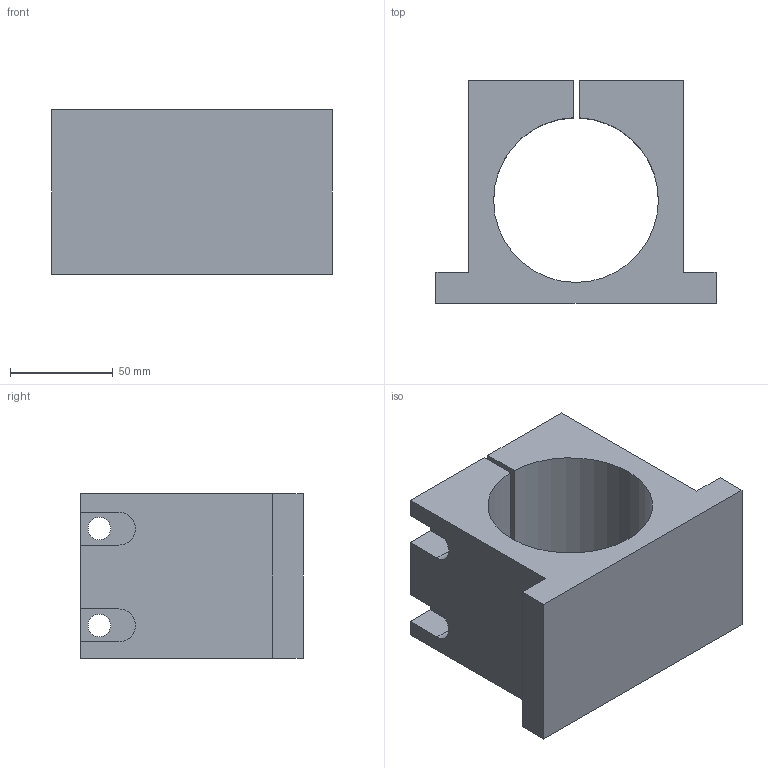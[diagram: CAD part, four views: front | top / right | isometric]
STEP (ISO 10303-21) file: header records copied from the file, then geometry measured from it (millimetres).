
FILE_DESCRIPTION(('STEP AP214'), '1');
FILE_NAME('Êðåïëåíèå äëÿ øïèíäåëÿ _ Cåðèÿ SQ80', '', ('UNSPECIFIED'), ('UNSPECIFIED'), 'ASCON STEP Converter 1.3', 'ASCON Math Kernel', '');
FILE_SCHEMA(('AUTOMOTIVE_DESIGN { 1 0 10303 214 3 1 1}'));
Length unit declared in the file: millimetre
Products named in the file (1): Ñåðèÿ SQ80
Bounding box: 136 x 108 x 80 mm (x, y, z)
Volume: 495059.1 mm3; surface area: 81813.4 mm2
Topology: 1 solids, 1 shells, 34 faces, 96 edges, 64 vertices
Faces by surface type: plane 25, cylinder 9
Full cylindrical faces by diameter (mm): 11 x4
Entity records: 1405 total; most frequent: CARTESIAN_POINT 191, ORIENTED_EDGE 184, DIRECTION 180, EDGE_CURVE 92, LINE 74, VECTOR 74, VERTEX_POINT 64, AXIS2_PLACEMENT_3D 53
